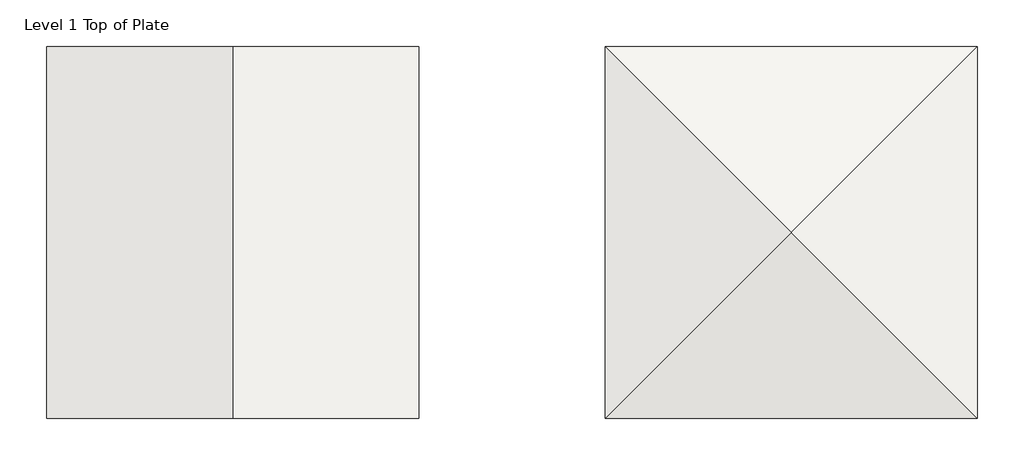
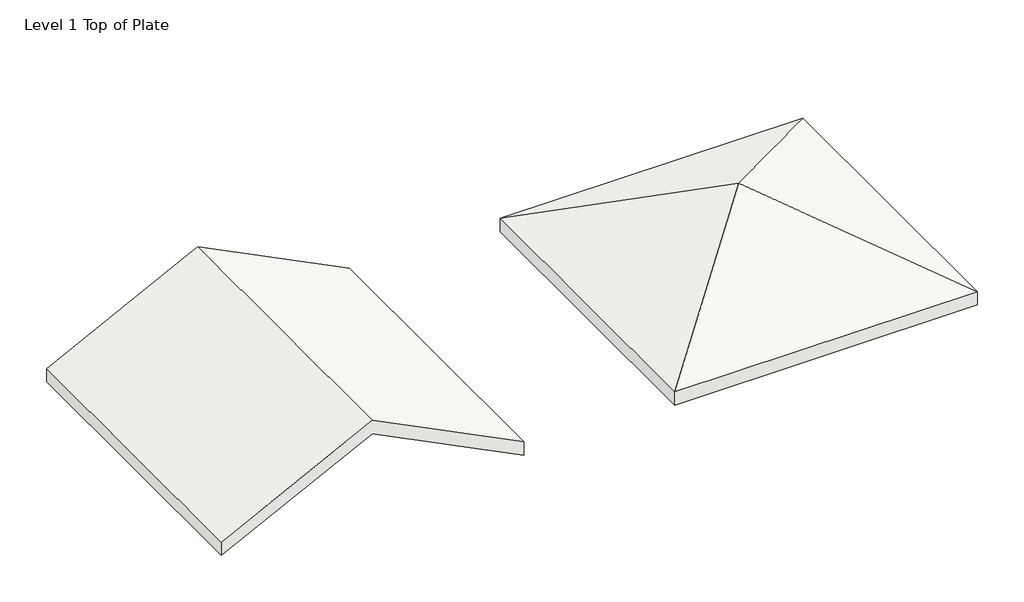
# One storey: 2 roofs.
"""IFC4 building model written with IfcOpenShell, lengths in millimetres."""

from ifc_helpers import new_model, si_unit, frame, origin, place, context, project, spatial, polyline, outline, extrude, faceted_brep, element, save

model = new_model("IFC4")

# Units and contexts
model_context = context("Model", 3, world=origin())
ifc_project = project(units=[si_unit("LENGTHUNIT", "METRE", prefix="MILLI")], contexts=[model_context])

# Site, building, storey
site = spatial("IfcSite", under=ifc_project)
building = spatial("IfcBuilding", under=site)
storey = spatial("IfcBuildingStorey", under=building, Name="Level 1 Top of Plate", Elevation=2771.775)

# Roofs
placement = place(None, origin())
element("IfcRoof", 1, ObjectType="Generic - 4\"", at=placement, inside=storey, context=model_context, shape_type="SweptSolid", body=[
    extrude(outline(polyline([(2885.3672533, 7655.8884825), (3494.9672533, 6436.6884825), (2885.3672533, 5217.4884825), (2771.775, 5217.4884825), (3381.375, 6436.6884825), (2771.775, 7655.8884825), (2885.3672533, 7655.8884825)])), frame((0.0, -4269.5155212, 0.0), z_axis=(0.0, 1.0, 0.0), x_axis=(0.0, 0.0, 1.0)), (0.0, 0.0, 1.0), 2438.4),
])
element("IfcRoof", 2, ObjectType="Generic - 4\"", at=placement, inside=storey, context=model_context, shape_type="Brep", body=[
    faceted_brep([(8875.0884825, -1831.1155212, 2771.775), (10094.2884825, -3050.3155212, 3381.375), (8875.0884825, -4269.5155212, 2771.775), (11313.4884825, -1831.1155212, 2771.775), (11313.4884825, -4269.5155212, 2771.775), (8875.0884825, -1831.1155212, 2885.3672533), (8875.0884825, -4269.5155212, 2885.3672533), (10094.2884825, -3050.3155212, 3494.9672533), (11313.4884825, -1831.1155212, 2885.3672533), (11313.4884825, -4269.5155212, 2885.3672533)], [[[0, 1, 2]], [[1, 3, 4]], [[5, 6, 7]], [[8, 7, 9]], [[2, 6, 5, 0]], [[3, 8, 9, 4]], [[3, 1, 0]], [[2, 1, 4]], [[8, 5, 7]], [[6, 9, 7]], [[0, 5, 8, 3]], [[4, 9, 6, 2]]]),
])

save(model, "model.ifc")
